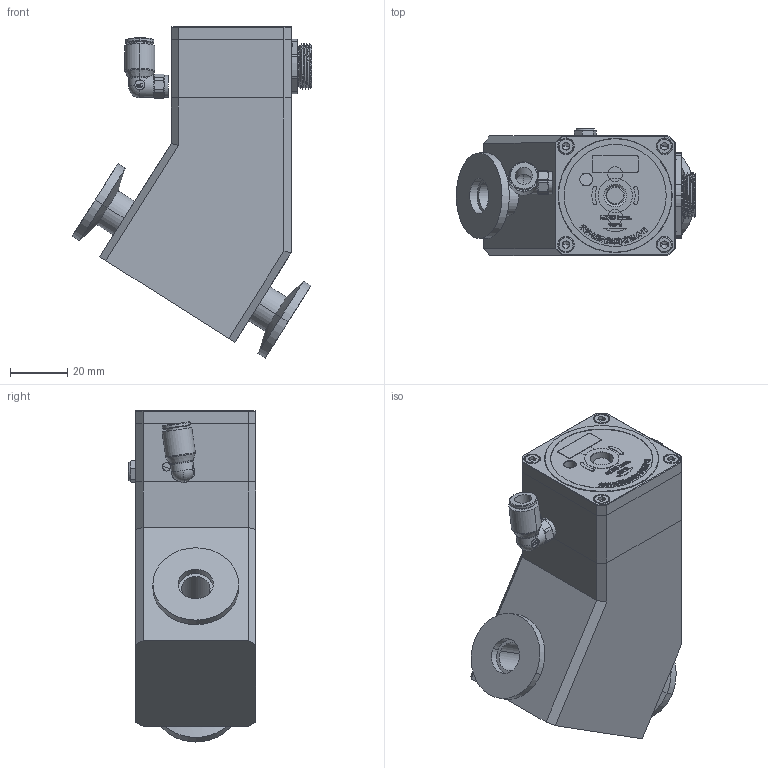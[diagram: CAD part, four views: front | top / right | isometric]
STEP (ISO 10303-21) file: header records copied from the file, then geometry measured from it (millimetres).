
FILE_DESCRIPTION (( 'STEP AP203' ), '1' );
FILE_NAME ('KF10眻盄概.STEP', '2021-12-21T14:34:58', ( '' ), ( '' ), 'SwSTEP 2.0', 'SolidWorks 2016', '' );
FILE_SCHEMA (( 'CONFIG_CONTROL_DESIGN' ));
Length unit declared in the file: millimetre
Products named in the file (1): KF10眻盄概
Bounding box: 83.92 x 44.65 x 116.41 mm (x, y, z)
Surface area: 31936.5 mm2 (no closed solid volume)
Topology: 0 solids, 34 shells, 638 faces, 2715 edges, 1991 vertices
Faces by surface type: plane 288, cylinder 140, bspline 129, cone 47, torus 32, sphere 2
Entity records: 40829 total; most frequent: CARTESIAN_POINT 20527, ORIENTED_EDGE 3870, DIRECTION 3552, EDGE_CURVE 2696, VERTEX_POINT 1991, VECTOR 1666, LINE 1666, AXIS2_PLACEMENT_3D 943
